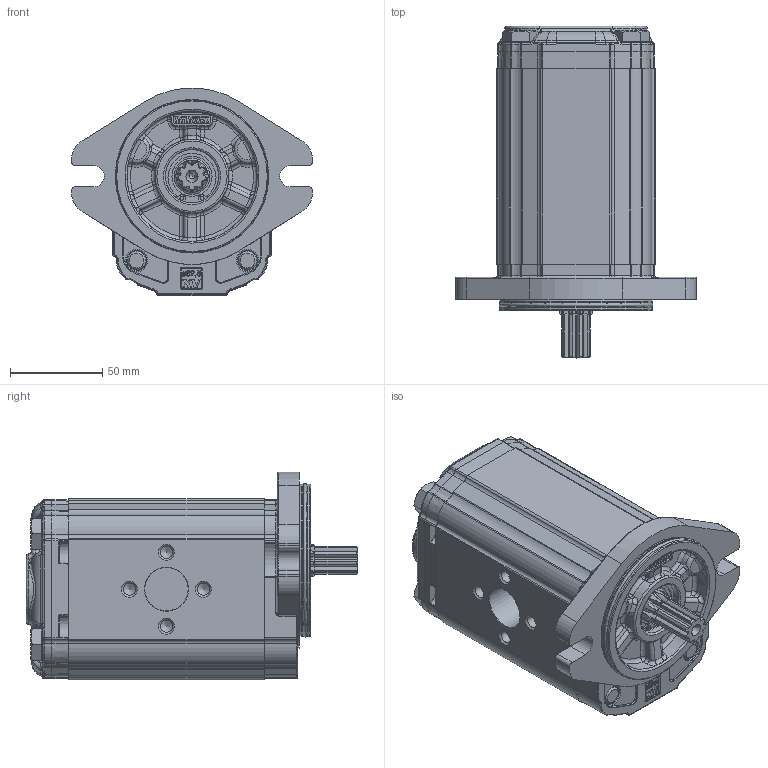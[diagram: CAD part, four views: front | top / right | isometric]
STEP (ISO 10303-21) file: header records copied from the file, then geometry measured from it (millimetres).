
FILE_DESCRIPTION(/* description */ ('Unknown'),/* implementation_level */ '2;1');
FILE_NAME(/* name */ 'X2P6352IQPA',/* time_stamp */ '2020-09-21T11:35:36+02:00',/* author */ ('Unknown'),/* organization */ ('Unknown'),/* preprocessor_version */ 'ST-DEVELOPER v16.7',/* originating_system */ 'DEX',/* authorisation */ $);
FILE_SCHEMA (('AUTOMOTIVE_DESIGN { 1 0 10303 214 3 1 1 }','TECHNICAL_DATA_PACKAGING','AUTOMOTIVE_DESIGN {1 0 10303 214 3 1 1}'));
Products named in the file (5): X2P6352IQPA; X2P52; 2I; X2QPH106; XP219-A
Assembly tree (4 placements, depth 2):
  X2P6352IQPA
    X2P52
    2I
    X2QPH106
    XP219-A
Bounding box: 130.38 x 179.7 x 112.3 mm (x, y, z)
Volume: 1076830.3 mm3; surface area: 139290.5 mm2
Topology: 4 solids, 5 shells, 2223 faces, 5483 edges, 3330 vertices
Faces by surface type: cylinder 661, plane 591, bspline 570, torus 247, cone 116, sphere 38
Full cylindrical faces by diameter (mm): 2 x2, 6.647 x8, 10 x4, 10.5 x4, 11 x2, 11.5 x4, 16 x4, 17.42 x1, 17.48 x2, 18.724 x1, 20 x1, 20.595 x1, 21.741 x1, 23.5 x1, 25.834 x1, 28.56 x1, 28.57 x1, 28.8 x1, 30.4 x1, 79.6 x2, 82.5 x2
Entity records: 101724 total; most frequent: CARTESIAN_POINT 39174, ORIENTED_EDGE 10532, DIRECTION 8859, EDGE_CURVE 5266, AXIS2_PLACEMENT_3D 3383, VERTEX_POINT 3266, FACE_BOUND 2446, EDGE_LOOP 2436
